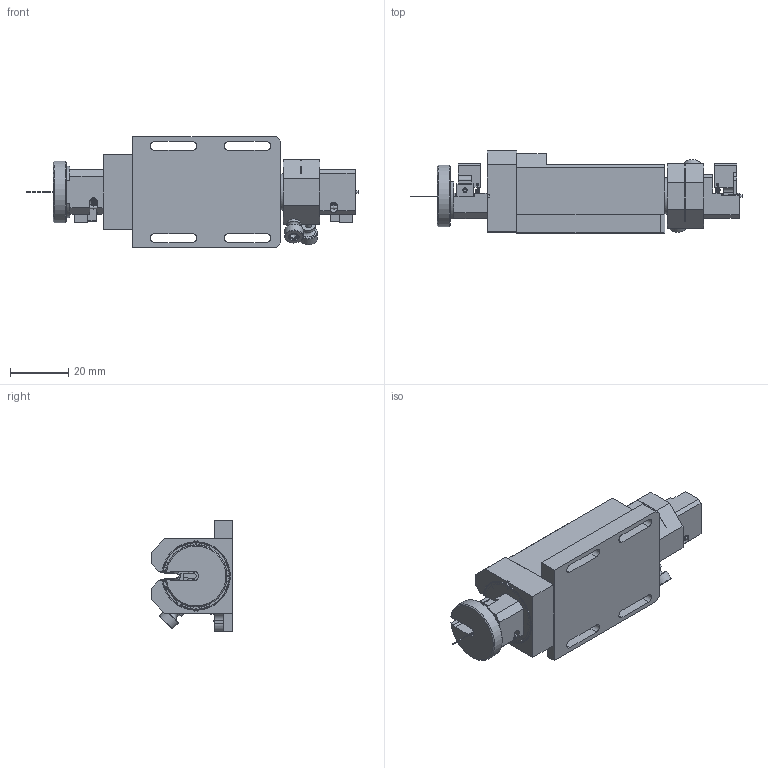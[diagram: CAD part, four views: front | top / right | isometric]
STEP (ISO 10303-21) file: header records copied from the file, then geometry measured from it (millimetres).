
FILE_DESCRIPTION((''),'1');
FILE_NAME('Luminos','2021-08-31T14:37:02',('JD'),('Luminos'),'Spatial Interop R20 SP1','Kubotek KeyCreator V9.0.3 (16864)',' ');
FILE_SCHEMA(('automotive_design'));
Length unit declared in the file: inch
Products named in the file (4): ferrule[3]; FRM2-2-Y[2]
Bounding box: 114.29 x 28.19 x 38.1 mm (x, y, z)
Volume: 48960.7 mm3; surface area: 17942.7 mm2
Topology: 4 solids, 4 shells, 766 faces, 2130 edges, 1404 vertices
Faces by surface type: plane 589, cylinder 104, cone 39, bspline 23, torus 6, sphere 4, revolution 1
Full cylindrical faces by diameter (mm): 0.125 x1, 0.792 x2, 1 x7, 1.524 x2, 1.854 x3, 2.184 x2, 2.438 x3, 2.54 x3, 2.794 x1, 3.556 x3, 3.683 x2, 4.762 x2, 6.35 x2
Entity records: 46869 total; most frequent: CARTESIAN_POINT 7768, ORIENTED_EDGE 4116, DIRECTION 3943, PRESENTATION_STYLE_ASSIGNMENT 3598, COLOUR_RGB 3598, STYLED_ITEM 2828, CURVE_STYLE 2828, DRAUGHTING_PRE_DEFINED_CURVE_FONT 2828
